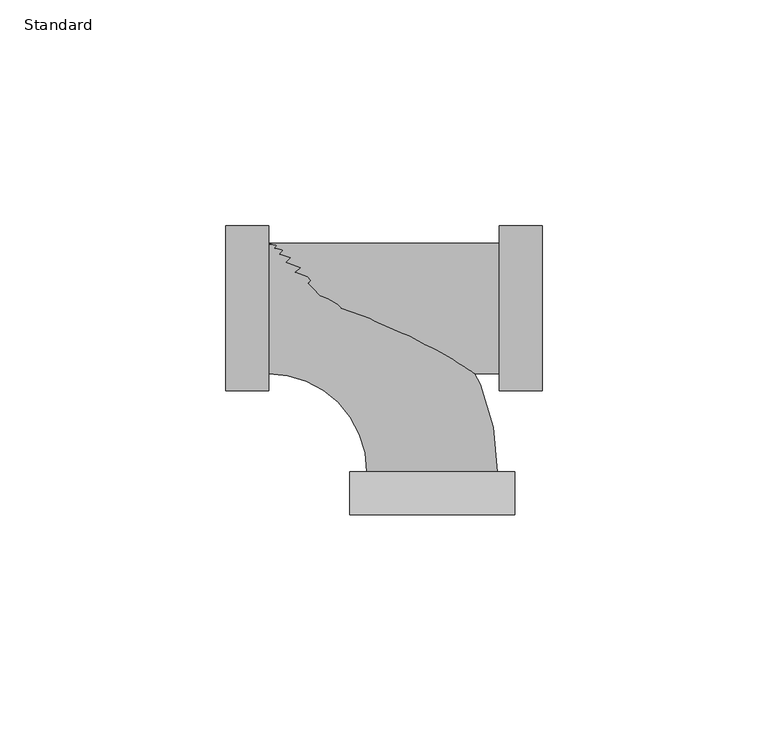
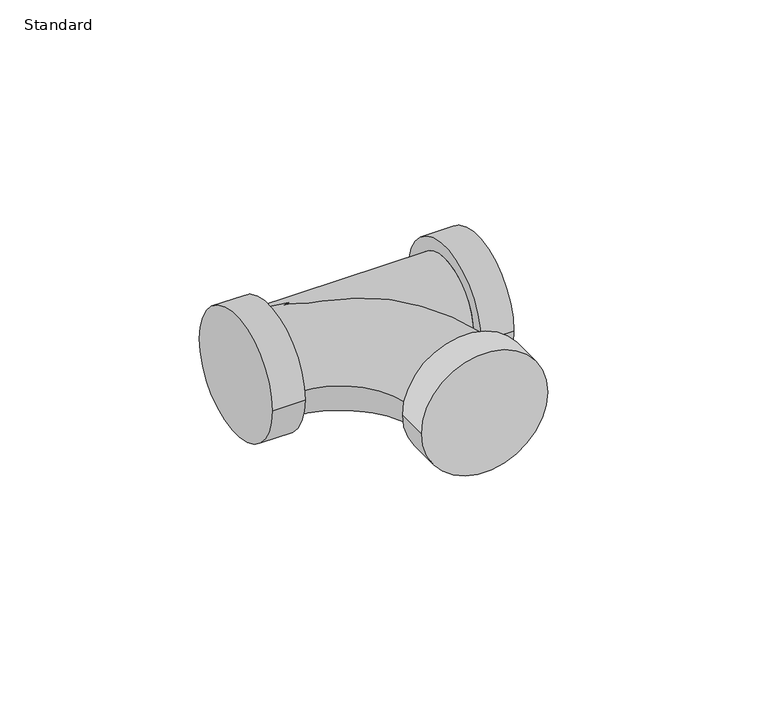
"""IFC4 building model written with IfcOpenShell, lengths in millimetres: pipe fitting geometry, Tee_Lubrizol_CPVC-FlowGuard_MX : Standard."""

from ifc_helpers import new_model, si_unit, point, frame, origin, place, context, project, spatial, circle_curve, ellipse_curve, trimmed, source, transform, mapped, element, save
from ifc_brep_helpers import plane_surface, cylinder_surface, revolved_surface, advanced_brep


def standard_f1e95f67(model_context):
    return source(origin(), model_context, "Body", "AdvancedBrep", [
        advanced_brep(
        [(-36.1540625, -14.4440625, 0.0), (-36.1540625, 14.4440625, 0.0), (-14.4440625, -36.1540625, 0.0), (14.4440625, -36.1540625, 0.0), (18.2471094, -45.6540625, 0.0), (-18.2471094, -45.6540625, 0.0), (18.2471094, -36.1540625, 0.0), (-18.2471094, -36.1540625, 0.0)],
        [
            (0, 1, circle_curve(frame((-36.1540625, 0.0, 0.0), z_axis=(-1.0, 0.0, 0.0), x_axis=(0.0, 1.0, 0.0)), 14.4440625)),
            (1, 0, circle_curve(frame((-36.1540625, 0.0, 0.0), z_axis=(-1.0, 0.0, 0.0), x_axis=(0.0, 1.0, 0.0)), 14.4440625)),
            (0, 2, circle_curve(frame((-36.1540625, -36.1540625, 0.0), z_axis=(0.0, 0.0, -1.0), x_axis=(0.0, 1.0, 0.0)), 21.71)),
            (2, 3, circle_curve(frame((0.0, -36.1540625, 0.0), z_axis=(-1.29502536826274e-12, 1.0, 0.0), x_axis=(1.0, 1.29502536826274e-12, 0.0)), 14.4440625)),
            (3, 1, circle_curve(frame((-36.1540625, -36.1540625, 0.0), z_axis=(0.0, 0.0, 1.0), x_axis=(0.0, 1.0, 0.0)), 50.598125)),
            (3, 2, circle_curve(frame((0.0, -36.1540625, 0.0), z_axis=(-1.0287938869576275e-12, 1.0, 0.0), x_axis=(1.0, 1.0287938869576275e-12, 0.0)), 14.4440625)),
            (4, 5, circle_curve(frame((0.0, -45.6540625, 0.0), z_axis=(0.0, -1.0, 0.0), x_axis=(-1.0, 0.0, 0.0)), 18.2471094)),
            (5, 4, circle_curve(frame((0.0, -45.6540625, 0.0), z_axis=(0.0, -1.0, 0.0), x_axis=(-1.0, 0.0, 0.0)), 18.2471094)),
            (6, 7, circle_curve(frame((0.0, -36.1540625, 0.0), z_axis=(0.0, 1.0, 0.0), x_axis=(-1.0, 0.0, 0.0)), 18.2471094)),
            (7, 6, circle_curve(frame((0.0, -36.1540625, 0.0), z_axis=(0.0, 1.0, 0.0), x_axis=(-1.0, 0.0, 0.0)), 18.2471094)),
            (4, 6),
            (7, 5),
        ],
        [
            plane_surface(frame((-36.1540625, 0.0, 0.0), z_axis=(-1.0, 0.0, 0.0), x_axis=(0.0, 0.0, 1.0))),
            revolved_surface(trimmed(ellipse_curve(frame((-36.1540625, 0.0, 0.0), z_axis=(-1.0, 0.0, 0.0), x_axis=(0.0, 1.0, 0.0)), 14.4440625, 14.4440625), [point((-36.1540625, -14.4440625, 0.0))], [point((-36.1540625, 14.4440625, 0.0))], True, "CARTESIAN"), (-36.1540625, -36.1540625, 0.0), (0.0, 0.0, -1.0)),
            revolved_surface(trimmed(ellipse_curve(frame((-36.1540625, 0.0, 0.0), z_axis=(-1.0, 0.0, 0.0), x_axis=(0.0, 1.0, 0.0)), 14.4440625, 14.4440625), [point((-36.1540625, 14.4440625, 0.0))], [point((-36.1540625, -14.4440625, 0.0))], True, "CARTESIAN"), (-36.1540625, -36.1540625, 0.0), (0.0, 0.0, -1.0)),
            plane_surface(frame((0.0, -45.6540625, 0.0), z_axis=(0.0, -1.0, 0.0), x_axis=(0.0, 0.0, 1.0))),
            plane_surface(frame((0.0, -36.1540625, 0.0), z_axis=(0.0, 1.0, 0.0), x_axis=(0.0, 0.0, 1.0))),
            cylinder_surface(frame((0.0, -45.6540625, 0.0), z_axis=(0.0, -1.0, 0.0), x_axis=(-1.0, 0.0, 0.0)), 18.2471094),
        ],
        [
            (0, [[1, 2]]),
            (1, [[-1, 3, 4, 5]]),
            (2, [[-2, -5, 6, -3]]),
            (3, [[7, 8]]),
            (4, [[9, 10], [-4, -6]]),
            (5, [[-7, 11, -10, 12]]),
            (5, [[-8, -12, -9, -11]]),
        ],
    ),
        advanced_brep(
        [(-36.1540625, -14.4440625, 0.0), (14.815625, -14.4440625, 0.0), (14.815625, 14.4440625, 0.0), (-36.1540625, 14.4440625, 0.0), (14.815625, -18.2471094, 0.0), (14.815625, 18.2471094, 0.0), (24.315625, -18.2471094, 0.0), (24.315625, 18.2471094, 0.0), (-45.6540625, -18.2471094, 0.0), (-45.6540625, 18.2471094, 0.0), (-36.1540625, -18.2471094, 0.0), (-36.1540625, 18.2471094, 0.0)],
        [
            (0, 1),
            (1, 2, circle_curve(frame((14.815625, 0.0, 0.0), z_axis=(-1.0, 0.0, 0.0), x_axis=(0.0, 1.0, 0.0)), 14.4440625)),
            (2, 3),
            (3, 0, circle_curve(frame((-36.1540625, 0.0, 0.0), z_axis=(1.0, 0.0, 0.0), x_axis=(0.0, 1.0, 0.0)), 14.4440625)),
            (0, 3, circle_curve(frame((-36.1540625, 0.0, 0.0), z_axis=(1.0, 0.0, 0.0), x_axis=(0.0, 1.0, 0.0)), 14.4440625)),
            (2, 1, circle_curve(frame((14.815625, 0.0, 0.0), z_axis=(-1.0, 0.0, 0.0), x_axis=(0.0, 1.0, 0.0)), 14.4440625)),
            (4, 5, circle_curve(frame((14.815625, 0.0, 0.0), z_axis=(-1.0, 0.0, 0.0), x_axis=(0.0, 1.0, 0.0)), 18.2471094)),
            (5, 4, circle_curve(frame((14.815625, 0.0, 0.0), z_axis=(-1.0, 0.0, 0.0), x_axis=(0.0, 1.0, 0.0)), 18.2471094)),
            (6, 7, circle_curve(frame((24.315625, 0.0, 0.0), z_axis=(1.0, 0.0, 0.0), x_axis=(0.0, 1.0, 0.0)), 18.2471094)),
            (7, 6, circle_curve(frame((24.315625, 0.0, 0.0), z_axis=(1.0, 0.0, 0.0), x_axis=(0.0, 1.0, 0.0)), 18.2471094)),
            (4, 6),
            (7, 5),
            (8, 9, circle_curve(frame((-45.6540625, 0.0, 0.0), z_axis=(-1.0, 0.0, 0.0), x_axis=(0.0, 1.0, 0.0)), 18.2471094)),
            (9, 8, circle_curve(frame((-45.6540625, 0.0, 0.0), z_axis=(-1.0, 0.0, 0.0), x_axis=(0.0, 1.0, 0.0)), 18.2471094)),
            (10, 11, circle_curve(frame((-36.1540625, 0.0, 0.0), z_axis=(1.0, 0.0, 0.0), x_axis=(0.0, 1.0, 0.0)), 18.2471094)),
            (11, 10, circle_curve(frame((-36.1540625, 0.0, 0.0), z_axis=(1.0, 0.0, 0.0), x_axis=(0.0, 1.0, 0.0)), 18.2471094)),
            (8, 10),
            (11, 9),
        ],
        [
            cylinder_surface(frame((-36.1540625, 0.0, 0.0), z_axis=(-1.0, 0.0, 0.0), x_axis=(0.0, 1.0, 0.0)), 14.4440625),
            plane_surface(frame((14.815625, 0.0, 0.0), z_axis=(-1.0, 0.0, 0.0), x_axis=(0.0, 0.0, 1.0))),
            plane_surface(frame((24.315625, 0.0, 0.0), z_axis=(1.0, 0.0, 0.0), x_axis=(0.0, 0.0, 1.0))),
            cylinder_surface(frame((14.815625, 0.0, 0.0), z_axis=(-1.0, 0.0, 0.0), x_axis=(0.0, 1.0, 0.0)), 18.2471094),
            plane_surface(frame((-45.6540625, 0.0, 0.0), z_axis=(-1.0, 0.0, 0.0), x_axis=(0.0, 0.0, 1.0))),
            plane_surface(frame((-36.1540625, 0.0, 0.0), z_axis=(1.0, 0.0, 0.0), x_axis=(0.0, 0.0, 1.0))),
            cylinder_surface(frame((-45.6540625, 0.0, 0.0), z_axis=(-1.0, 0.0, 0.0), x_axis=(0.0, 1.0, 0.0)), 18.2471094),
        ],
        [
            (0, [[1, 2, 3, 4]]),
            (0, [[-1, 5, -3, 6]]),
            (1, [[7, 8], [-2, -6]]),
            (2, [[9, 10]]),
            (3, [[-7, 11, -10, 12]]),
            (3, [[-8, -12, -9, -11]]),
            (4, [[13, 14]]),
            (5, [[15, 16], [-4, -5]]),
            (6, [[-13, 17, -16, 18]]),
            (6, [[-14, -18, -15, -17]]),
        ],
    ),
    ])


if __name__ == "__main__":
    model = new_model("IFC4")
    model_context = context("Model", 3, world=origin())
    ifc_project = project(units=[si_unit("LENGTHUNIT", "METRE", prefix="MILLI")], contexts=[model_context])
    site = spatial("IfcSite", under=ifc_project)
    building = spatial("IfcBuilding", under=site)
    placement = place(None, origin())
    standard_shape = standard_f1e95f67(model_context)
    element("IfcPipeFitting", 1, ObjectType="Tee_Lubrizol_CPVC-FlowGuard_MX : Standard", at=placement, inside=building, context=model_context, shape_type="MappedRepresentation", body=[
        mapped(standard_shape, transform((0.0, 0.0, 0.0), x_axis=(1.0, 0.0, 0.0), y_axis=(0.0, 1.0, 0.0), z_axis=(0.0, 0.0, 1.0))),
    ])
    save(model, "model.ifc")
